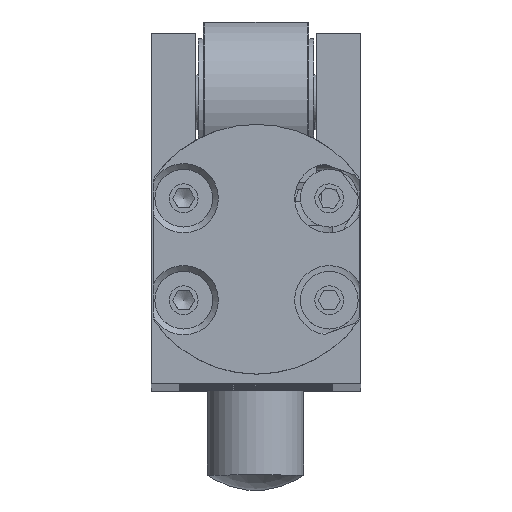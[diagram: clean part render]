
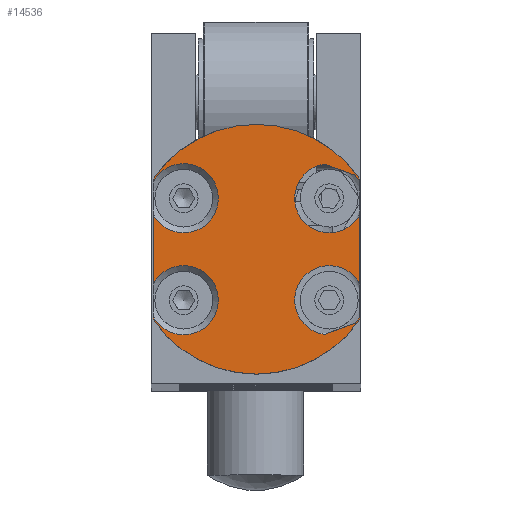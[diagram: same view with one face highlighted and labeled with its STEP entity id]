
A CAD part, top view. The second image highlights one B-rep face of the part: STEP entity #14536.
In plain terms, the highlighted planar face has unit normal (0, 0, 1).
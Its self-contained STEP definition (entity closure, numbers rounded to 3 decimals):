
#571=PLANE('',#16355);
#1555=FACE_OUTER_BOUND('',#2433,.T.);
#2433=EDGE_LOOP('',(#11940,#11941,#11942,#11943,#11944,#11945,#11946,#11947,
#11948,#11949,#11950,#11951,#11952,#11953,#11954,#11955));
#3143=LINE('',#26833,#3735);
#3144=LINE('',#26836,#3736);
#3145=LINE('',#26840,#3737);
#3146=LINE('',#26844,#3738);
#3147=LINE('',#26848,#3739);
#3148=LINE('',#26852,#3740);
#3149=LINE('',#26856,#3741);
#3150=LINE('',#26859,#3742);
#3735=VECTOR('',#20407,10.);
#3736=VECTOR('',#20410,10.);
#3737=VECTOR('',#20413,10.);
#3738=VECTOR('',#20416,10.);
#3739=VECTOR('',#20419,10.);
#3740=VECTOR('',#20422,10.);
#3741=VECTOR('',#20425,10.);
#3742=VECTOR('',#20428,10.);
#4940=CIRCLE('',#16349,3.6);
#4943=CIRCLE('',#16352,3.6);
#4944=CIRCLE('',#16356,3.6);
#4945=CIRCLE('',#16357,3.6);
#4946=CIRCLE('',#16358,13.);
#4947=CIRCLE('',#16359,3.6);
#4948=CIRCLE('',#16360,3.6);
#4949=CIRCLE('',#16361,13.);
#6420=VERTEX_POINT('',#26809);
#6421=VERTEX_POINT('',#26810);
#6422=VERTEX_POINT('',#26814);
#6426=VERTEX_POINT('',#26825);
#6427=VERTEX_POINT('',#26835);
#6428=VERTEX_POINT('',#26837);
#6429=VERTEX_POINT('',#26839);
#6430=VERTEX_POINT('',#26841);
#6431=VERTEX_POINT('',#26843);
#6432=VERTEX_POINT('',#26845);
#6433=VERTEX_POINT('',#26847);
#6434=VERTEX_POINT('',#26849);
#6435=VERTEX_POINT('',#26851);
#6436=VERTEX_POINT('',#26853);
#6437=VERTEX_POINT('',#26855);
#6438=VERTEX_POINT('',#26857);
#8383=EDGE_CURVE('',#6422,#6420,#4940,.T.);
#8389=EDGE_CURVE('',#6421,#6426,#4943,.T.);
#8391=EDGE_CURVE('',#6426,#6422,#3143,.T.);
#8392=EDGE_CURVE('',#6420,#6427,#3144,.T.);
#8393=EDGE_CURVE('',#6427,#6428,#4944,.T.);
#8394=EDGE_CURVE('',#6428,#6429,#3145,.T.);
#8395=EDGE_CURVE('',#6429,#6430,#4945,.T.);
#8396=EDGE_CURVE('',#6430,#6431,#3146,.T.);
#8397=EDGE_CURVE('',#6432,#6431,#4946,.T.);
#8398=EDGE_CURVE('',#6432,#6433,#3147,.T.);
#8399=EDGE_CURVE('',#6433,#6434,#4947,.T.);
#8400=EDGE_CURVE('',#6434,#6435,#3148,.T.);
#8401=EDGE_CURVE('',#6435,#6436,#4948,.T.);
#8402=EDGE_CURVE('',#6436,#6437,#3149,.T.);
#8403=EDGE_CURVE('',#6438,#6437,#4949,.T.);
#8404=EDGE_CURVE('',#6438,#6421,#3150,.T.);
#11940=ORIENTED_EDGE('',*,*,#8389,.T.);
#11941=ORIENTED_EDGE('',*,*,#8391,.T.);
#11942=ORIENTED_EDGE('',*,*,#8383,.T.);
#11943=ORIENTED_EDGE('',*,*,#8392,.T.);
#11944=ORIENTED_EDGE('',*,*,#8393,.T.);
#11945=ORIENTED_EDGE('',*,*,#8394,.T.);
#11946=ORIENTED_EDGE('',*,*,#8395,.T.);
#11947=ORIENTED_EDGE('',*,*,#8396,.T.);
#11948=ORIENTED_EDGE('',*,*,#8397,.F.);
#11949=ORIENTED_EDGE('',*,*,#8398,.T.);
#11950=ORIENTED_EDGE('',*,*,#8399,.T.);
#11951=ORIENTED_EDGE('',*,*,#8400,.T.);
#11952=ORIENTED_EDGE('',*,*,#8401,.T.);
#11953=ORIENTED_EDGE('',*,*,#8402,.T.);
#11954=ORIENTED_EDGE('',*,*,#8403,.F.);
#11955=ORIENTED_EDGE('',*,*,#8404,.T.);
#14536=ADVANCED_FACE('',(#1555),#571,.T.);
#16349=AXIS2_PLACEMENT_3D('',#26815,#20393,#20394);
#16352=AXIS2_PLACEMENT_3D('',#26829,#20400,#20401);
#16355=AXIS2_PLACEMENT_3D('',#26834,#20408,#20409);
#16356=AXIS2_PLACEMENT_3D('',#26838,#20411,#20412);
#16357=AXIS2_PLACEMENT_3D('',#26842,#20414,#20415);
#16358=AXIS2_PLACEMENT_3D('',#26846,#20417,#20418);
#16359=AXIS2_PLACEMENT_3D('',#26850,#20420,#20421);
#16360=AXIS2_PLACEMENT_3D('',#26854,#20423,#20424);
#16361=AXIS2_PLACEMENT_3D('',#26858,#20426,#20427);
#20393=DIRECTION('center_axis',(0.,0.,
-1.));
#20394=DIRECTION('ref_axis',(-0.342,0.94,0.));
#20400=DIRECTION('center_axis',(0.,0.,
-1.));
#20401=DIRECTION('ref_axis',(-0.342,0.94,0.));
#20407=DIRECTION('',(-0.94,-0.342,0.));
#20408=DIRECTION('center_axis',(0.,0.,
1.));
#20409=DIRECTION('ref_axis',(1.,0.,0.));
#20410=DIRECTION('',(0.,1.,0.));
#20411=DIRECTION('center_axis',(0.,0.,
-1.));
#20412=DIRECTION('ref_axis',(-0.342,-0.94,0.));
#20413=DIRECTION('',(0.94,-0.342,0.));
#20414=DIRECTION('center_axis',(0.,0.,
-1.));
#20415=DIRECTION('ref_axis',(-0.342,-0.94,0.));
#20416=DIRECTION('',(0.,1.,0.));
#20417=DIRECTION('center_axis',(0.,0.,
-1.));
#20418=DIRECTION('ref_axis',(0.,1.,0.));
#20419=DIRECTION('',(0.,-1.,0.));
#20420=DIRECTION('center_axis',(0.,0.,
-1.));
#20421=DIRECTION('ref_axis',(1.,0.,0.));
#20422=DIRECTION('',(0.,-1.,0.));
#20423=DIRECTION('center_axis',(0.,0.,
-1.));
#20424=DIRECTION('ref_axis',(1.,0.,0.));
#20425=DIRECTION('',(0.,-1.,0.));
#20426=DIRECTION('center_axis',(0.,0.,
-1.));
#20427=DIRECTION('ref_axis',(0.,1.,0.));
#20428=DIRECTION('',(0.,1.,0.));
#26809=CARTESIAN_POINT('',(10.8,-7.855,226.));
#26810=CARTESIAN_POINT('',(10.8,-11.256,226.));
#26814=CARTESIAN_POINT('',(7.114,-13.119,226.));
#26815=CARTESIAN_POINT('Origin',(7.627,-9.556,226.));
#26825=CARTESIAN_POINT('',(10.311,-11.955,226.));
#26829=CARTESIAN_POINT('Origin',(7.627,-9.556,226.));
#26833=CARTESIAN_POINT('',(8.206,-12.721,226.));
#26834=CARTESIAN_POINT('Origin',(0.05,2.25,226.));
#26835=CARTESIAN_POINT('',(10.8,-0.645,226.));
#26836=CARTESIAN_POINT('',(10.8,-4.655,226.));
#26837=CARTESIAN_POINT('',(7.114,4.619,226.));
#26838=CARTESIAN_POINT('Origin',(7.627,1.056,226.));
#26839=CARTESIAN_POINT('',(10.311,3.455,226.));
#26840=CARTESIAN_POINT('',(6.117,4.982,226.));
#26841=CARTESIAN_POINT('',(10.8,2.756,226.));
#26842=CARTESIAN_POINT('Origin',(7.627,1.056,226.));
#26843=CARTESIAN_POINT('',(10.8,3.06,226.));
#26844=CARTESIAN_POINT('',(10.8,-4.655,226.));
#26845=CARTESIAN_POINT('',(-10.7,3.06,226.));
#26846=CARTESIAN_POINT('Origin',(0.05,-4.25,226.));
#26847=CARTESIAN_POINT('',(-10.7,2.756,226.));
#26848=CARTESIAN_POINT('',(-10.7,2.655,226.));
#26849=CARTESIAN_POINT('',(-10.7,-0.645,226.));
#26850=CARTESIAN_POINT('Origin',(-7.527,1.056,226.));
#26851=CARTESIAN_POINT('',(-10.7,-7.855,226.));
#26852=CARTESIAN_POINT('',(-10.7,2.655,226.));
#26853=CARTESIAN_POINT('',(-10.7,-11.256,226.));
#26854=CARTESIAN_POINT('Origin',(-7.527,-9.556,226.));
#26855=CARTESIAN_POINT('',(-10.7,-11.56,226.));
#26856=CARTESIAN_POINT('',(-10.7,2.655,226.));
#26857=CARTESIAN_POINT('',(10.8,-11.56,226.));
#26858=CARTESIAN_POINT('Origin',(0.05,-4.25,226.));
#26859=CARTESIAN_POINT('',(10.8,-4.655,226.));
